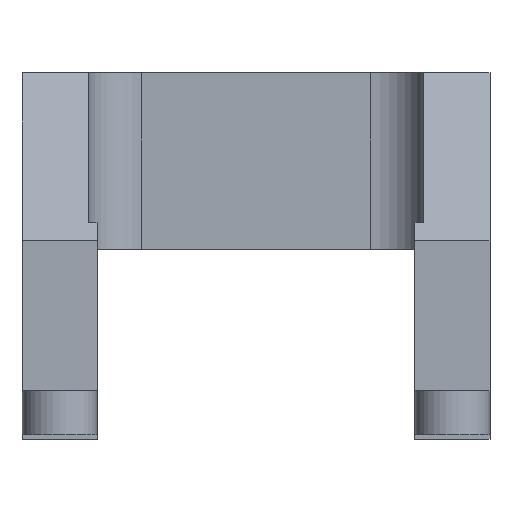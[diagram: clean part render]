
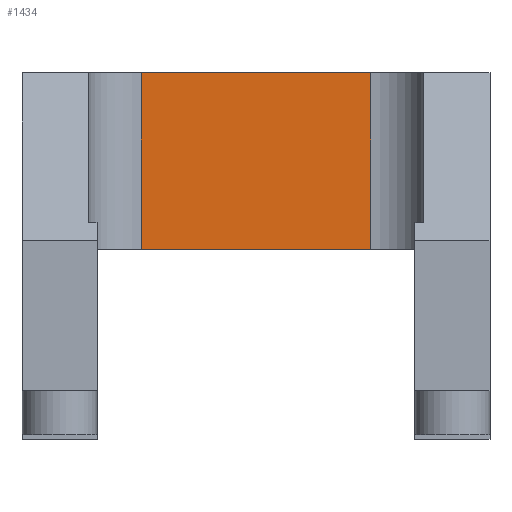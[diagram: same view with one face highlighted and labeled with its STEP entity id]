
A CAD part, front view. The second image highlights one B-rep face of the part: STEP entity #1434.
In plain terms, the highlighted planar face has unit normal (0, -1, 0).
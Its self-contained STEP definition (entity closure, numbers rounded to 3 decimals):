
#128=FACE_OUTER_BOUND('',#212,.T.);
#212=EDGE_LOOP('',(#1133,#1134,#1135,#1136));
#335=LINE('',#2255,#499);
#347=LINE('',#2291,#511);
#357=LINE('',#2315,#521);
#359=LINE('',#2318,#523);
#499=VECTOR('',#1823,10.);
#511=VECTOR('',#1853,10.);
#521=VECTOR('',#1879,10.);
#523=VECTOR('',#1883,10.);
#672=VERTEX_POINT('',#2252);
#673=VERTEX_POINT('',#2254);
#687=VERTEX_POINT('',#2288);
#688=VERTEX_POINT('',#2290);
#832=EDGE_CURVE('',#672,#673,#335,.T.);
#850=EDGE_CURVE('',#687,#688,#347,.T.);
#863=EDGE_CURVE('',#688,#672,#357,.T.);
#865=EDGE_CURVE('',#673,#687,#359,.T.);
#1133=ORIENTED_EDGE('',*,*,#863,.F.);
#1134=ORIENTED_EDGE('',*,*,#850,.F.);
#1135=ORIENTED_EDGE('',*,*,#865,.F.);
#1136=ORIENTED_EDGE('',*,*,#832,.F.);
#1361=PLANE('',#1574);
#1434=ADVANCED_FACE('',(#128),#1361,.F.);
#1574=AXIS2_PLACEMENT_3D('',#2317,#1881,#1882);
#1823=DIRECTION('',(-1.,0.,0.));
#1853=DIRECTION('',(1.,0.,0.));
#1879=DIRECTION('',(0.,0.,-1.));
#1881=DIRECTION('center_axis',(0.,1.,0.));
#1882=DIRECTION('ref_axis',(-1.,0.,0.));
#1883=DIRECTION('',(0.,0.,1.));
#2252=CARTESIAN_POINT('',(13.,60.,10.));
#2254=CARTESIAN_POINT('',(-13.,60.,10.));
#2255=CARTESIAN_POINT('',(9.5,60.,10.));
#2288=CARTESIAN_POINT('',(-13.,60.,30.));
#2290=CARTESIAN_POINT('',(13.,60.,30.));
#2291=CARTESIAN_POINT('',(9.5,60.,30.));
#2315=CARTESIAN_POINT('',(13.,60.,0.));
#2317=CARTESIAN_POINT('Origin',(19.,60.,0.));
#2318=CARTESIAN_POINT('',(-13.,60.,0.));
